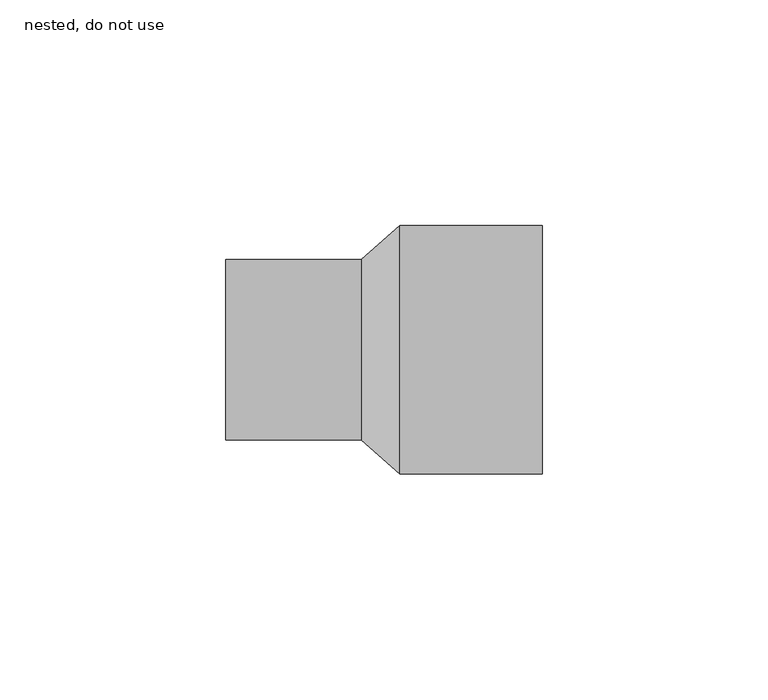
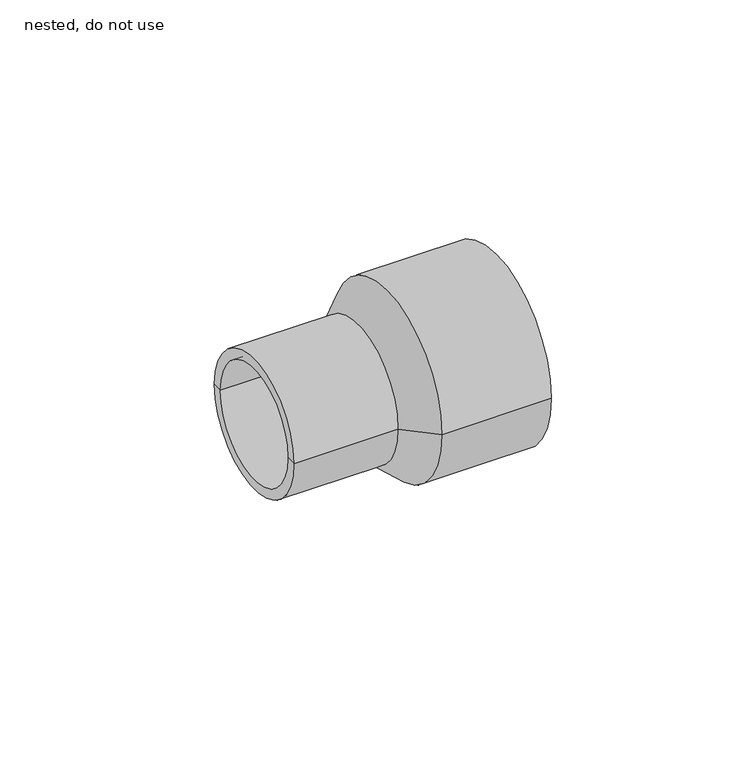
"""IFC4 building model written with IfcOpenShell, lengths in millimetres: pipe fitting geometry, ZZZ_do no use_PIF_HDPE female thread adapter -SH_Akatherm : nested, do not use."""

from ifc_helpers import new_model, si_unit, frame, origin, place, context, project, spatial, polyline, circle_curve, source, transform, mapped, element, save
from ifc_brep_helpers import plane_surface, cylinder_surface, revolved_surface, advanced_brep


def nested_do_not_use_a526494d(model_context):
    return source(origin(), model_context, "Body", "AdvancedBrep", [
        advanced_brep(
        [(-5.0, 17.0, 0.0), (-35.0, 17.0, 0.0), (-35.0, -17.0, 0.0), (-5.0, -17.0, 0.0), (5.0, 15.875, 0.0), (5.0, -15.875, 0.0), (35.0, 15.875, 0.0), (35.0, -15.875, 0.0), (35.0, 27.5, 0.0), (35.0, -27.5, 0.0), (-35.0, 20.0, 0.0), (-5.0, 20.0, 0.0), (-5.0, -20.0, 0.0), (-35.0, -20.0, 0.0), (3.5, 27.5, 0.0), (3.5, -27.5, 0.0)],
        [
            (0, 1),
            (1, 2, circle_curve(frame((-35.0, 0.0, 0.0), z_axis=(-1.0, 0.0, 0.0), x_axis=(0.0, -1.0, 0.0)), 17.0)),
            (2, 3),
            (3, 0, circle_curve(frame((-5.0, 0.0, 0.0), z_axis=(1.0, 0.0, 0.0), x_axis=(0.0, -1.0, 0.0)), 17.0)),
            (2, 1, circle_curve(frame((-35.0, 0.0, 0.0), z_axis=(-1.0, 0.0, 0.0), x_axis=(0.0, -1.0, 0.0)), 17.0)),
            (0, 3, circle_curve(frame((-5.0, 0.0, 0.0), z_axis=(1.0, 0.0, 0.0), x_axis=(0.0, -1.0, 0.0)), 17.0)),
            (4, 0),
            (3, 5),
            (5, 4, circle_curve(frame((5.0, 0.0, 0.0), z_axis=(1.0, 0.0, 0.0), x_axis=(0.0, -1.0, 0.0)), 15.875)),
            (4, 5, circle_curve(frame((5.0, 0.0, 0.0), z_axis=(1.0, 0.0, 0.0), x_axis=(0.0, -1.0, 0.0)), 15.875)),
            (6, 4),
            (5, 7),
            (7, 6, circle_curve(frame((35.0, 0.0, 0.0), z_axis=(1.0, 0.0, 0.0), x_axis=(0.0, -1.0, 0.0)), 15.875)),
            (6, 7, circle_curve(frame((35.0, 0.0, 0.0), z_axis=(1.0, 0.0, 0.0), x_axis=(0.0, -1.0, 0.0)), 15.875)),
            (8, 6),
            (7, 9),
            (9, 8, circle_curve(frame((35.0, 0.0, 0.0), z_axis=(1.0, 0.0, 0.0), x_axis=(0.0, -1.0, 0.0)), 27.5)),
            (8, 9, circle_curve(frame((35.0, 0.0, 0.0), z_axis=(1.0, 0.0, 0.0), x_axis=(0.0, -1.0, 0.0)), 27.5)),
            (10, 11),
            (11, 12, circle_curve(frame((-5.0, 0.0, 0.0), z_axis=(-1.0, 0.0, 0.0), x_axis=(0.0, -1.0, 0.0)), 20.0)),
            (12, 13),
            (13, 10, circle_curve(frame((-35.0, 0.0, 0.0), z_axis=(1.0, 0.0, 0.0), x_axis=(0.0, -1.0, 0.0)), 20.0)),
            (12, 11, circle_curve(frame((-5.0, 0.0, 0.0), z_axis=(-1.0, 0.0, 0.0), x_axis=(0.0, -1.0, 0.0)), 20.0)),
            (10, 13, circle_curve(frame((-35.0, 0.0, 0.0), z_axis=(1.0, 0.0, 0.0), x_axis=(0.0, -1.0, 0.0)), 20.0)),
            (1, 10),
            (13, 2),
            (14, 8),
            (9, 15),
            (15, 14, circle_curve(frame((3.5, 0.0, 0.0), z_axis=(1.0, 0.0, 0.0), x_axis=(0.0, -1.0, 0.0)), 27.5)),
            (14, 15, circle_curve(frame((3.5, 0.0, 0.0), z_axis=(1.0, 0.0, 0.0), x_axis=(0.0, -1.0, 0.0)), 27.5)),
            (11, 14),
            (15, 12),
        ],
        [
            revolved_surface(polyline([(-35.00000000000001, -17.0, 0.0), (-5.000000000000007, -17.0, 0.0)]), (63.5733983, 0.0, 0.0), (-1.0, 0.0, 0.0)),
            revolved_surface(polyline([(-5.0, -17.0, 0.0), (5.0, -15.875, 0.0)]), (63.5733983, 0.0, 0.0), (-1.0, 0.0, 0.0)),
            revolved_surface(polyline([(5.0, -15.875, 0.0), (35.0, -15.875, 0.0)]), (63.5733983, 0.0, 0.0), (-1.0, 0.0, 0.0)),
            plane_surface(frame((35.0, 0.0, 0.0), z_axis=(1.0, 0.0, 0.0), x_axis=(0.0, -1.0, 0.0))),
            cylinder_surface(frame((63.5733983, 0.0, 0.0), z_axis=(-1.0, 0.0, 0.0), x_axis=(0.0, -1.0, 0.0)), 20.0),
            plane_surface(frame((-35.0, 0.0, 0.0), z_axis=(-1.0, 0.0, 0.0), x_axis=(0.0, -1.0, 0.0))),
            cylinder_surface(frame((63.5733983, 0.0, 0.0), z_axis=(-1.0, 0.0, 0.0), x_axis=(0.0, -1.0, 0.0)), 27.5),
            revolved_surface(polyline([(3.5, -27.5, 0.0), (-5.0, -20.0, 0.0)]), (63.5733983, 0.0, 0.0), (-1.0, 0.0, 0.0)),
        ],
        [
            (0, [[1, 2, 3, 4]]),
            (0, [[-3, 5, -1, 6]]),
            (1, [[7, -4, 8, 9]]),
            (1, [[-8, -6, -7, 10]]),
            (2, [[11, -9, 12, 13]]),
            (2, [[-12, -10, -11, 14]]),
            (3, [[15, -13, 16, 17]]),
            (3, [[-16, -14, -15, 18]]),
            (4, [[19, 20, 21, 22]]),
            (4, [[-21, 23, -19, 24]]),
            (5, [[25, -22, 26, -2]]),
            (5, [[-26, -24, -25, -5]]),
            (6, [[27, -17, 28, 29]]),
            (6, [[-28, -18, -27, 30]]),
            (7, [[31, -29, 32, -20]]),
            (7, [[-32, -30, -31, -23]]),
        ],
    ),
    ])


if __name__ == "__main__":
    model = new_model("IFC4")
    model_context = context("Model", 3, world=origin())
    ifc_project = project(units=[si_unit("LENGTHUNIT", "METRE", prefix="MILLI")], contexts=[model_context])
    site = spatial("IfcSite", under=ifc_project)
    building = spatial("IfcBuilding", under=site)
    placement = place(None, origin())
    nested_do_not_use_shape = nested_do_not_use_a526494d(model_context)
    element("IfcPipeFitting", 1, ObjectType="ZZZ_do no use_PIF_HDPE female thread adapter -SH_Akatherm : nested, do not use", at=placement, inside=building, context=model_context, shape_type="MappedRepresentation", body=[
        mapped(nested_do_not_use_shape, transform((0.0, 0.0, 0.0), x_axis=(1.0, 0.0, 0.0), y_axis=(0.0, 1.0, 0.0), z_axis=(0.0, 0.0, 1.0))),
    ])
    save(model, "model.ifc")
